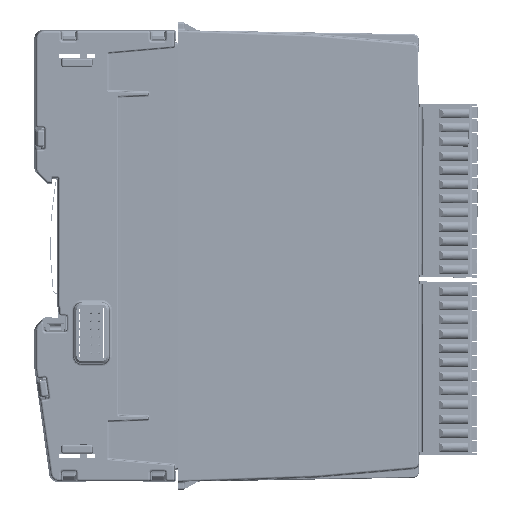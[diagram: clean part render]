
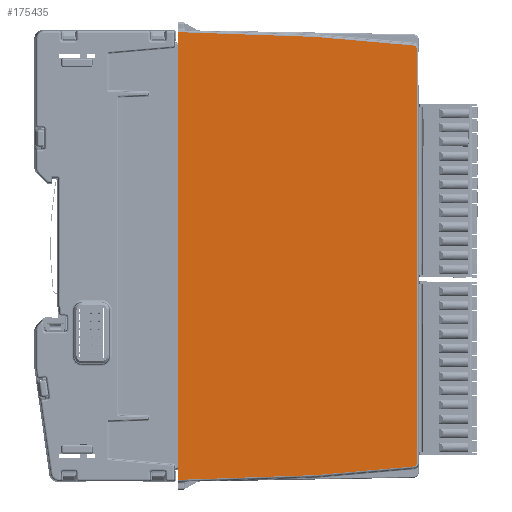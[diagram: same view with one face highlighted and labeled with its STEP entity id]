
A CAD part, left-side view. The second image highlights one B-rep face of the part: STEP entity #175435.
In plain terms, the highlighted planar face has unit normal (-1, -0.018, 0).
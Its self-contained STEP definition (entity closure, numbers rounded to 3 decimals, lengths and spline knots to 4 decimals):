
#5765=ELLIPSE('',#188413,0.0315,0.0315);
#5766=ELLIPSE('',#188414,0.0315,0.0315);
#9536=PLANE('',#188412);
#17408=FACE_OUTER_BOUND('',#27158,.T.);
#27158=EDGE_LOOP('',(#141649,#141650,#141651,#141652,#141653,#141654,#141655,
#141656,#141657,#141658));
#47954=LINE('',#290371,#65186);
#47955=LINE('',#290373,#65187);
#47956=LINE('',#290375,#65188);
#47957=LINE('',#290377,#65189);
#47958=LINE('',#290379,#65190);
#47959=LINE('',#290383,#65191);
#47960=LINE('',#290387,#65192);
#47961=LINE('',#290388,#65193);
#65186=VECTOR('',#222779,39.3701);
#65187=VECTOR('',#222780,39.3701);
#65188=VECTOR('',#222781,39.3701);
#65189=VECTOR('',#222782,39.3701);
#65190=VECTOR('',#222783,39.3701);
#65191=VECTOR('',#222786,39.3701);
#65192=VECTOR('',#222789,39.3701);
#65193=VECTOR('',#222790,39.3701);
#81458=VERTEX_POINT('',#290369);
#81459=VERTEX_POINT('',#290370);
#81460=VERTEX_POINT('',#290372);
#81461=VERTEX_POINT('',#290374);
#81462=VERTEX_POINT('',#290376);
#81463=VERTEX_POINT('',#290378);
#81464=VERTEX_POINT('',#290380);
#81465=VERTEX_POINT('',#290382);
#81466=VERTEX_POINT('',#290384);
#81467=VERTEX_POINT('',#290386);
#102527=EDGE_CURVE('',#81458,#81459,#47954,.T.);
#102528=EDGE_CURVE('',#81460,#81459,#47955,.T.);
#102529=EDGE_CURVE('',#81460,#81461,#47956,.T.);
#102530=EDGE_CURVE('',#81461,#81462,#47957,.T.);
#102531=EDGE_CURVE('',#81462,#81463,#47958,.T.);
#102532=EDGE_CURVE('',#81463,#81464,#5765,.T.);
#102533=EDGE_CURVE('',#81464,#81465,#47959,.T.);
#102534=EDGE_CURVE('',#81465,#81466,#5766,.T.);
#102535=EDGE_CURVE('',#81466,#81467,#47960,.T.);
#102536=EDGE_CURVE('',#81467,#81458,#47961,.T.);
#141649=ORIENTED_EDGE('',*,*,#102527,.T.);
#141650=ORIENTED_EDGE('',*,*,#102528,.F.);
#141651=ORIENTED_EDGE('',*,*,#102529,.T.);
#141652=ORIENTED_EDGE('',*,*,#102530,.T.);
#141653=ORIENTED_EDGE('',*,*,#102531,.T.);
#141654=ORIENTED_EDGE('',*,*,#102532,.T.);
#141655=ORIENTED_EDGE('',*,*,#102533,.T.);
#141656=ORIENTED_EDGE('',*,*,#102534,.T.);
#141657=ORIENTED_EDGE('',*,*,#102535,.T.);
#141658=ORIENTED_EDGE('',*,*,#102536,.T.);
#175435=ADVANCED_FACE('',(#17408),#9536,.T.);
#188412=AXIS2_PLACEMENT_3D('',#290368,#222777,#222778);
#188413=AXIS2_PLACEMENT_3D('',#290381,#222784,#222785);
#188414=AXIS2_PLACEMENT_3D('',#290385,#222787,#222788);
#222777=DIRECTION('center_axis',(-1.,-0.017,
0.));
#222778=DIRECTION('ref_axis',(-0.017,1.,0.));
#222779=DIRECTION('',(0.,0.,-1.));
#222780=DIRECTION('',(0.,0.,1.));
#222781=DIRECTION('',(0.,0.,-1.));
#222782=DIRECTION('',(0.017,-0.999,0.035));
#222783=DIRECTION('',(0.017,-0.996,0.087));
#222784=DIRECTION('center_axis',(-1.,-0.017,
0.));
#222785=DIRECTION('ref_axis',(0.017,-1.,0.));
#222786=DIRECTION('',(0.,0.,1.));
#222787=DIRECTION('center_axis',(-1.,-0.017,
0.));
#222788=DIRECTION('ref_axis',(0.017,-1.,0.));
#222789=DIRECTION('',(-0.017,0.996,0.087));
#222790=DIRECTION('',(-0.017,0.999,0.035));
#290368=CARTESIAN_POINT('Origin',(-0.0296,-0.489,
-2.0669));
#290369=CARTESIAN_POINT('',(-0.0227,-0.8827,0.1083));
#290370=CARTESIAN_POINT('',(-0.0227,-0.8827,-0.0312));
#290371=CARTESIAN_POINT('',(-0.0227,-0.8827,0.128));
#290372=CARTESIAN_POINT('',(-0.0227,-0.8827,-4.1027));
#290373=CARTESIAN_POINT('',(-0.0227,-0.8827,-7.5932));
#290374=CARTESIAN_POINT('',(-0.0227,-0.8827,-4.2421));
#290375=CARTESIAN_POINT('',(-0.0227,-0.8827,0.128));
#290376=CARTESIAN_POINT('',(0.0007,-2.2205,-4.1954));
#290377=CARTESIAN_POINT('',(-0.0282,-0.5654,-4.2532));
#290378=CARTESIAN_POINT('',(0.0174,-3.1772,-4.1117));
#290379=CARTESIAN_POINT('',(-0.0261,-0.6869,-4.3296));
#290380=CARTESIAN_POINT('',(0.0179,-3.2059,-4.0803));
#290381=CARTESIAN_POINT('Origin',(0.0173,-3.1744,
-4.0803));
#290382=CARTESIAN_POINT('',(0.0179,-3.2059,-0.0535));
#290383=CARTESIAN_POINT('',(0.0179,-3.2059,-0.0535));
#290384=CARTESIAN_POINT('',(0.0174,-3.1772,-0.0221));
#290385=CARTESIAN_POINT('Origin',(0.0173,-3.1744,
-0.0535));
#290386=CARTESIAN_POINT('',(0.0007,-2.2205,0.0616));
#290387=CARTESIAN_POINT('',(-0.0261,-0.6869,0.1957));
#290388=CARTESIAN_POINT('',(-0.0282,-0.5654,0.1194));
